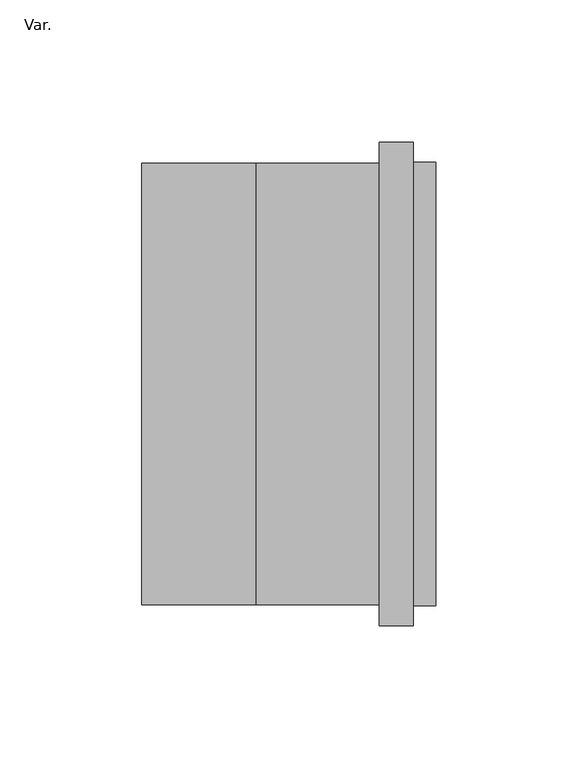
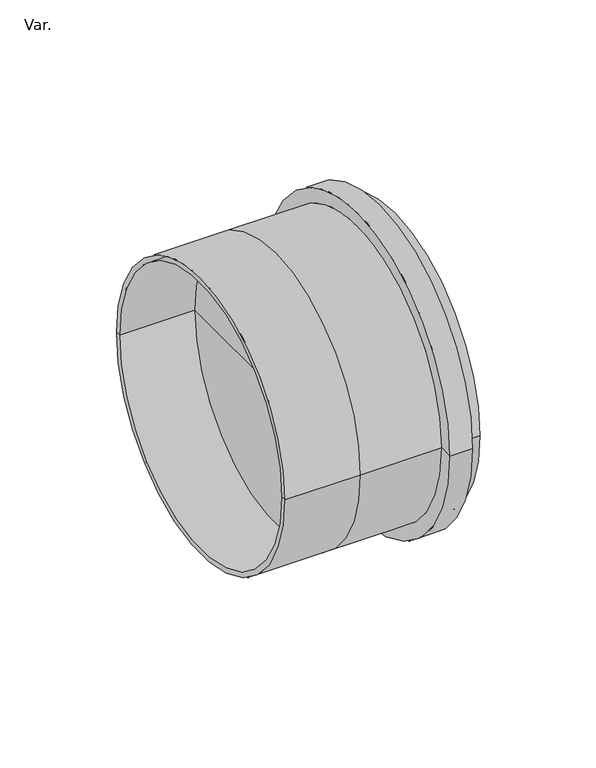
"""IFC4 building model written with IfcOpenShell, lengths in millimetres: pipe fitting geometry, AmancoWavin_ConexõesdeTubos_EsgotoZNãoUsarLuvaSimple : Var.."""

import ifcopenshell
import ifcopenshell.guid

model = None  # the IFC model being written
_history = None  # IfcOwnerHistory: only IFC2X3 demands one
_inside = {}  # id of a spatial element -> (the spatial element, [elements in it])
_under = {}  # id of a project, library or spatial element -> (it, [spatial elements below it])
_declared = {}  # id of a project -> (the project, [libraries it declares])
_typed = {}  # id of a type object -> (the type object, [elements of that type])
_made_of = {}  # id of a material, layer set ... -> (it, [elements and type objects made of it])


def new_model(schema):
    """Start an empty IFC model of exactly this schema.

    Asked for "IFC4X3", IfcOpenShell would pick the latest addendum, in which some entities
    have other attributes; the version numbers below select the first issue.
    IFC2X3 requires an IfcOwnerHistory on every rooted entity: one is made here for all.
    """
    global model, _history
    if schema == "IFC4X3":
        model = ifcopenshell.file(schema_version=(4, 3, 0, 0))
    else:
        model = ifcopenshell.file(schema=schema)
    _inside.clear()
    _under.clear()
    _declared.clear()
    _typed.clear()
    _made_of.clear()
    _history = None
    if model.schema == "IFC2X3":
        org = make("IfcOrganization", Name="unknown")
        user = make(
            "IfcPersonAndOrganization",
            ThePerson=make("IfcPerson", FamilyName="unknown"),
            TheOrganization=org,
        )
        app = make(
            "IfcApplication",
            ApplicationDeveloper=org,
            Version="unknown",
            ApplicationFullName="unknown",
            ApplicationIdentifier="unknown",
        )
        _history = make(
            "IfcOwnerHistory",
            OwningUser=user,
            OwningApplication=app,
            ChangeAction="ADDED",
            CreationDate=0,
        )
    return model


def make(cls, **values):
    """One entity of the class cls with the attributes given. An attribute that is None is left unset."""
    return model.create_entity(
        cls, **{name: value for name, value in values.items() if value is not None}
    )


def rooted(cls, **values):
    """An entity with a GlobalId (a new one), such as an element, a storey or a relation."""
    return make(cls, GlobalId=ifcopenshell.guid.new(), OwnerHistory=_history, **values)


def si_unit(unit_type, name, prefix=None):
    """IfcSIUnit, for example si_unit("LENGTHUNIT", "METRE", prefix="MILLI")."""
    return make("IfcSIUnit", UnitType=unit_type, Prefix=prefix, Name=name)


def assignment(units):
    """IfcUnitAssignment: the units of a project."""
    return None if units is None else make("IfcUnitAssignment", Units=units)


def point(xyz):
    """IfcCartesianPoint."""
    return None if xyz is None else make("IfcCartesianPoint", Coordinates=xyz)


def direction(xyz):
    """IfcDirection."""
    return None if xyz is None else make("IfcDirection", DirectionRatios=xyz)


def frame(location, z_axis=None, x_axis=None):
    """IfcAxis2Placement3D, a coordinate frame: its origin and axes. An axis left out is left unset."""
    return make(
        "IfcAxis2Placement3D",
        Location=point(location),
        Axis=direction(z_axis),
        RefDirection=direction(x_axis),
    )


def origin():
    """The frame at (0, 0, 0) with its axes left unset."""
    return frame((0.0, 0.0, 0.0))


def place(relative_to, where):
    """IfcLocalPlacement: puts the frame where relative to a parent placement (None: the world)."""
    return make(
        "IfcLocalPlacement", PlacementRelTo=relative_to, RelativePlacement=where
    )


def context(
    kind, dimensions, precision=None, world=None, true_north=None, identifier=None
):
    """IfcGeometricRepresentationContext, for example the 3D "Model" context."""
    return make(
        "IfcGeometricRepresentationContext",
        ContextIdentifier=identifier,
        ContextType=kind,
        CoordinateSpaceDimension=dimensions,
        Precision=precision,
        WorldCoordinateSystem=world,
        TrueNorth=true_north,
    )


def project(units=None, contexts=None):
    """IfcProject with its units and contexts."""
    return rooted(
        "IfcProject",
        Name="project",
        RepresentationContexts=contexts,
        UnitsInContext=assignment(units),
    )


def spatial(cls, under=None, at=None, **own):
    """A site, building, storey or space (cls), placed at a placement, below another one or the project."""
    s = rooted(cls, ObjectPlacement=at, **own)
    if under is not None:
        _under.setdefault(under.id(), (under, []))[1].append(s)
    return s


def polyline(points):
    """IfcPolyline through the points."""
    return make("IfcPolyline", Points=[point(p) for p in points])


def circle_curve(where, radius):
    """IfcCircle in the frame where."""
    return make("IfcCircle", Position=where, Radius=radius)


def shape(context_of_items, identifier, shape_type, items):
    """IfcShapeRepresentation: the items that make up one representation, for example the "Body"."""
    return make(
        "IfcShapeRepresentation",
        ContextOfItems=context_of_items,
        RepresentationIdentifier=identifier,
        RepresentationType=shape_type,
        Items=items,
    )


def source(mapping_origin, context_of_items, identifier, shape_type, items):
    """IfcRepresentationMap: a shape defined once, which mapped items show again and again."""
    return make(
        "IfcRepresentationMap",
        MappingOrigin=mapping_origin,
        MappedRepresentation=shape(context_of_items, identifier, shape_type, items),
    )


def transform(
    local_origin,
    x_axis=None,
    y_axis=None,
    z_axis=None,
    scale=None,
    scale2=None,
    scale3=None,
    uniform=True,
):
    """IfcCartesianTransformationOperator3D, or its non-uniform kind. x_axis, y_axis, z_axis: its Axis1, 2, 3."""
    if uniform:
        return make(
            "IfcCartesianTransformationOperator3D",
            Axis1=direction(x_axis),
            Axis2=direction(y_axis),
            LocalOrigin=point(local_origin),
            Scale=scale,
            Axis3=direction(z_axis),
        )
    return make(
        "IfcCartesianTransformationOperator3DnonUniform",
        Axis1=direction(x_axis),
        Axis2=direction(y_axis),
        LocalOrigin=point(local_origin),
        Scale=scale,
        Axis3=direction(z_axis),
        Scale2=scale2,
        Scale3=scale3,
    )


def mapped(mapping_source, mapping_target):
    """IfcMappedItem: shows the shape of a source again, moved by a transform."""
    return make(
        "IfcMappedItem", MappingSource=mapping_source, MappingTarget=mapping_target
    )


def made_of(thing, what):
    """Note that an element or type object is made of a material, layer set ...; save() writes the relation."""
    if what is not None:
        _made_of.setdefault(what.id(), (what, []))[1].append(thing)
    return thing


def element(
    cls,
    number,
    at=None,
    inside=None,
    cuts=None,
    type_object=None,
    material=None,
    context=None,
    identifier="Body",
    shape_type=None,
    held_by="IfcProductDefinitionShape",
    body=None,
    shapes=None,
    **own,
):
    """One element of the class cls, such as IfcWall. Its Tag is "e" and its number.

    at: its placement. inside: the storey or other place that contains it. cuts: it is an
    opening in that element (IfcRelVoidsElement). A single representation is given by context,
    identifier, shape_type and body (its items); several are given by shapes. held_by: the class
    of the entity that holds the representations. save() writes the other relations.
    """
    e = rooted(cls, Tag="e%d" % number, ObjectPlacement=at, **own)
    if body is not None:
        shapes = [shape(context, identifier, shape_type, body)]
    if shapes is not None:
        e.Representation = make(held_by, Representations=shapes)
    if inside is not None:
        _inside.setdefault(inside.id(), (inside, []))[1].append(e)
    if cuts is not None:
        rooted(
            "IfcRelVoidsElement", RelatingBuildingElement=cuts, RelatedOpeningElement=e
        )
    if type_object is not None:
        _typed.setdefault(type_object.id(), (type_object, []))[1].append(e)
    return made_of(e, material)


def aggregate(whole, parts):
    """IfcRelAggregates: a whole, such as a stair, and the parts it consists of."""
    return rooted("IfcRelAggregates", RelatingObject=whole, RelatedObjects=parts)


def save(model, path):
    """Write the relations noted so far, then the file.

    IfcRelAggregates (storeys below a building ...), IfcRelContainedInSpatialStructure (elements
    in a storey), IfcRelDefinesByType, IfcRelAssociatesMaterial and IfcRelDeclares: one each for
    every whole, place, type object, material and project.
    """
    for whole, parts in _under.values():
        aggregate(whole, parts)
    for where, things in _inside.values():
        rooted(
            "IfcRelContainedInSpatialStructure",
            RelatedElements=things,
            RelatingStructure=where,
        )
    for kind, things in _typed.values():
        rooted("IfcRelDefinesByType", RelatedObjects=things, RelatingType=kind)
    for what, things in _made_of.values():
        rooted("IfcRelAssociatesMaterial", RelatedObjects=things, RelatingMaterial=what)
    for by, libraries in _declared.values():
        rooted("IfcRelDeclares", RelatingContext=by, RelatedDefinitions=libraries)
    model.write(path)


def plane_surface(at):
    """IfcPlane: the flat surface through the origin of the frame at, square to its z axis."""
    return make("IfcPlane", Position=at)


def cylinder_surface(at, radius):
    """IfcCylindricalSurface: all points at the distance radius from the z axis of the frame at."""
    return make("IfcCylindricalSurface", Position=at, Radius=radius)


def revolved_surface(curve, axis_point, axis_direction):
    """IfcSurfaceOfRevolution: the curve turned about the line through axis_point along axis_direction."""
    return make(
        "IfcSurfaceOfRevolution",
        SweptCurve=make("IfcArbitraryOpenProfileDef", ProfileType="CURVE", Curve=curve),
        AxisPosition=make("IfcAxis1Placement", Location=point(axis_point), Axis=direction(axis_direction)),
    )


def advanced_brep(points, edges, surfaces, faces):
    """IfcAdvancedBrep: a solid bounded by faces that lie on surfaces and meet in shared edges.

    An edge is (start, end): straight between two places in points (the first is 0);
    or (start, end, curve); or (start, end, curve, False) where it runs against its curve.
    A face is (place in surfaces, loops), or (place, loops, False) where it looks against
    its surface's normal. A loop lists edges by number (the first is 1), with a minus sign
    where the edge is run from its end to its start. The first loop is the outer one.
    """
    corners = [point(p) for p in points]
    vertices = [make("IfcVertexPoint", VertexGeometry=c) for c in corners]
    made = []
    for start, end, *more in edges:
        made.append(
            make(
                "IfcEdgeCurve",
                EdgeStart=vertices[start],
                EdgeEnd=vertices[end],
                EdgeGeometry=more[0] if more else make("IfcPolyline", Points=[corners[start], corners[end]]),
                SameSense=more[1] if len(more) > 1 else True,
            )
        )
    hull = []
    for where, loops, *sense in faces:
        bounds = []
        for j, loop in enumerate(loops):
            ring = [make("IfcOrientedEdge", EdgeElement=made[abs(k) - 1], Orientation=k > 0) for k in loop]
            bounds.append(
                make(
                    "IfcFaceOuterBound" if j == 0 else "IfcFaceBound",
                    Bound=make("IfcEdgeLoop", EdgeList=ring),
                    Orientation=True,
                )
            )
        hull.append(make("IfcAdvancedFace", Bounds=bounds, FaceSurface=surfaces[where], SameSense=sense[0] if sense else True))
    return make("IfcAdvancedBrep", Outer=make("IfcClosedShell", CfsFaces=hull))


def var_42dec933(model_context):
    return source(origin(), model_context, "Body", "AdvancedBrep", [
        advanced_brep(
        [(55.5, -78.1, 0.0), (55.5, 78.1, 0.0), (63.5, 78.1, 0.0), (63.5, -78.1, 0.0), (55.5, -75.4, 0.0), (55.5, 75.4, 0.0), (63.5, -75.4, 0.0), (63.5, 75.4, 0.0)],
        [
            (0, 1, circle_curve(frame((55.5, 0.0, 0.0), z_axis=(1.0, 0.0, 0.0), x_axis=(0.0, 1.0, 0.0)), 78.1)),
            (1, 2),
            (2, 3, circle_curve(frame((63.5, 0.0, 0.0), z_axis=(-1.0, 0.0, 0.0), x_axis=(0.0, 1.0, 0.0)), 78.1)),
            (3, 0),
            (1, 0, circle_curve(frame((55.5, 0.0, 0.0), z_axis=(1.0, 0.0, 0.0), x_axis=(0.0, 1.0, 0.0)), 78.1)),
            (3, 2, circle_curve(frame((63.5, 0.0, 0.0), z_axis=(-1.0, 0.0, 0.0), x_axis=(0.0, 1.0, 0.0)), 78.1)),
            (4, 5, circle_curve(frame((55.5, 0.0, 0.0), z_axis=(1.0, 0.0, 0.0), x_axis=(0.0, 1.0, 0.0)), 75.4)),
            (5, 1),
            (0, 4),
            (5, 4, circle_curve(frame((55.5, 0.0, 0.0), z_axis=(1.0, 0.0, 0.0), x_axis=(0.0, 1.0, 0.0)), 75.4)),
            (6, 7, circle_curve(frame((63.5, 0.0, 0.0), z_axis=(1.0, 0.0, 0.0), x_axis=(0.0, 1.0, 0.0)), 75.4)),
            (7, 5),
            (4, 6),
            (7, 6, circle_curve(frame((63.5, 0.0, 0.0), z_axis=(1.0, 0.0, 0.0), x_axis=(0.0, 1.0, 0.0)), 75.4)),
            (2, 7),
            (6, 3),
        ],
        [
            cylinder_surface(frame((2024.2, 0.0, 0.0), z_axis=(-1.0, 0.0, 0.0), x_axis=(0.0, 1.0, 0.0)), 78.1),
            plane_surface(frame((55.5, 0.0, 0.0), z_axis=(-1.0, 0.0, 0.0), x_axis=(0.0, 1.0, 0.0))),
            revolved_surface(polyline([(55.5, 75.4, 0.0), (63.5, 75.4, 0.0)]), (2024.2, 0.0, 0.0), (-1.0, 0.0, 0.0)),
            plane_surface(frame((63.5, 0.0, 0.0), z_axis=(1.0, 0.0, 0.0), x_axis=(0.0, 1.0, 0.0))),
        ],
        [
            (0, [[1, 2, 3, 4]]),
            (0, [[5, -4, 6, -2]]),
            (1, [[7, 8, -1, 9]]),
            (1, [[10, -9, -5, -8]]),
            (2, [[11, 12, -7, 13]]),
            (2, [[14, -13, -10, -12]]),
            (3, [[-3, 15, -11, 16]]),
            (3, [[-6, -16, -14, -15]]),
        ],
    ),
        advanced_brep(
        [(-40.0, -77.7, 0.0), (-40.0, 77.7, 0.0), (0.0, 77.7, 0.0), (0.0, -77.7, 0.0), (-40.0, -75.0, 0.0), (-40.0, 75.0, 0.0), (0.0, -75.0, 0.0), (0.0, 75.0, 0.0), (0.0, 0.0, 0.0), (3.5, -75.4, 0.0), (3.5, 75.4, 0.0), (3.5, 0.0, 0.0), (55.5, -85.2, 0.0), (55.5, 85.2, 0.0), (55.5, 75.4, 0.0), (55.5, -75.4, 0.0), (43.5, -85.2, 0.0), (43.5, 85.2, 0.0), (43.5, -77.7, 0.0), (43.5, 77.7, 0.0)],
        [
            (0, 1, circle_curve(frame((-40.0, 0.0, 0.0), z_axis=(1.0, 0.0, 0.0), x_axis=(0.0, 1.0, 0.0)), 77.7)),
            (1, 2),
            (2, 3, circle_curve(frame((0.0, 0.0, 0.0), z_axis=(-1.0, 0.0, 0.0), x_axis=(0.0, 1.0, 0.0)), 77.7)),
            (3, 0),
            (1, 0, circle_curve(frame((-40.0, 0.0, 0.0), z_axis=(1.0, 0.0, 0.0), x_axis=(0.0, 1.0, 0.0)), 77.7)),
            (3, 2, circle_curve(frame((0.0, 0.0, 0.0), z_axis=(-1.0, 0.0, 0.0), x_axis=(0.0, 1.0, 0.0)), 77.7)),
            (4, 5, circle_curve(frame((-40.0, 0.0, 0.0), z_axis=(1.0, 0.0, 0.0), x_axis=(0.0, 1.0, 0.0)), 75.0)),
            (5, 1),
            (0, 4),
            (5, 4, circle_curve(frame((-40.0, 0.0, 0.0), z_axis=(1.0, 0.0, 0.0), x_axis=(0.0, 1.0, 0.0)), 75.0)),
            (6, 7, circle_curve(frame((0.0, 0.0, 0.0), z_axis=(1.0, 0.0, 0.0), x_axis=(0.0, 1.0, 0.0)), 75.0)),
            (7, 5),
            (4, 6),
            (7, 6, circle_curve(frame((0.0, 0.0, 0.0), z_axis=(1.0, 0.0, 0.0), x_axis=(0.0, 1.0, 0.0)), 75.0)),
            (8, 7),
            (6, 8),
            (9, 10, circle_curve(frame((3.5, 0.0, 0.0), z_axis=(1.0, 0.0, 0.0), x_axis=(0.0, 1.0, 0.0)), 75.4)),
            (10, 11),
            (11, 9),
            (10, 9, circle_curve(frame((3.5, 0.0, 0.0), z_axis=(1.0, 0.0, 0.0), x_axis=(0.0, 1.0, 0.0)), 75.4)),
            (12, 13, circle_curve(frame((55.5, 0.0, 0.0), z_axis=(1.0, 0.0, 0.0), x_axis=(0.0, 1.0, 0.0)), 85.2)),
            (13, 14),
            (14, 15, circle_curve(frame((55.5, 0.0, 0.0), z_axis=(-1.0, 0.0, 0.0), x_axis=(0.0, 1.0, 0.0)), 75.4)),
            (15, 12),
            (13, 12, circle_curve(frame((55.5, 0.0, 0.0), z_axis=(1.0, 0.0, 0.0), x_axis=(0.0, 1.0, 0.0)), 85.2)),
            (15, 14, circle_curve(frame((55.5, 0.0, 0.0), z_axis=(-1.0, 0.0, 0.0), x_axis=(0.0, 1.0, 0.0)), 75.4)),
            (16, 17, circle_curve(frame((43.5, 0.0, 0.0), z_axis=(1.0, 0.0, 0.0), x_axis=(0.0, 1.0, 0.0)), 85.2)),
            (17, 13),
            (12, 16),
            (17, 16, circle_curve(frame((43.5, 0.0, 0.0), z_axis=(1.0, 0.0, 0.0), x_axis=(0.0, 1.0, 0.0)), 85.2)),
            (18, 19, circle_curve(frame((43.5, 0.0, 0.0), z_axis=(1.0, 0.0, 0.0), x_axis=(0.0, 1.0, 0.0)), 77.7)),
            (19, 17),
            (16, 18),
            (19, 18, circle_curve(frame((43.5, 0.0, 0.0), z_axis=(1.0, 0.0, 0.0), x_axis=(0.0, 1.0, 0.0)), 77.7)),
            (2, 19),
            (18, 3),
            (14, 10),
            (9, 15),
        ],
        [
            cylinder_surface(frame((2018.5, 0.0, 0.0), z_axis=(-1.0, 0.0, 0.0), x_axis=(0.0, 1.0, 0.0)), 77.7),
            plane_surface(frame((-40.0, 0.0, 0.0), z_axis=(-1.0, 0.0, 0.0), x_axis=(0.0, 1.0, 0.0))),
            revolved_surface(polyline([(-40.0, 75.0, 0.0), (0.0, 75.0, 0.0)]), (2018.5, 0.0, 0.0), (-1.0, 0.0, 0.0)),
            plane_surface(frame((0.0, 0.0, 0.0), z_axis=(-1.0, 0.0, 0.0), x_axis=(0.0, 1.0, 0.0))),
            plane_surface(frame((3.5, 0.0, 0.0), z_axis=(1.0, 0.0, 0.0), x_axis=(0.0, 1.0, 0.0))),
            plane_surface(frame((55.5, 0.0, 0.0), z_axis=(1.0, 0.0, 0.0), x_axis=(0.0, 1.0, 0.0))),
            cylinder_surface(frame((2018.5, 0.0, 0.0), z_axis=(-1.0, 0.0, 0.0), x_axis=(0.0, 1.0, 0.0)), 85.2),
            plane_surface(frame((43.5, 0.0, 0.0), z_axis=(-1.0, 0.0, 0.0), x_axis=(0.0, 1.0, 0.0))),
            revolved_surface(polyline([(3.5, 75.4, 0.0), (55.5, 75.4, 0.0)]), (2018.5, 0.0, 0.0), (-1.0, 0.0, 0.0)),
        ],
        [
            (0, [[1, 2, 3, 4]]),
            (0, [[5, -4, 6, -2]]),
            (1, [[7, 8, -1, 9]]),
            (1, [[10, -9, -5, -8]]),
            (2, [[11, 12, -7, 13]]),
            (2, [[14, -13, -10, -12]]),
            (3, [[15, -11, 16]]),
            (3, [[-16, -14, -15]]),
            (4, [[17, 18, 19]]),
            (4, [[20, -19, -18]]),
            (5, [[21, 22, 23, 24]]),
            (5, [[25, -24, 26, -22]]),
            (6, [[27, 28, -21, 29]]),
            (6, [[30, -29, -25, -28]]),
            (7, [[31, 32, -27, 33]]),
            (7, [[34, -33, -30, -32]]),
            (0, [[-3, 35, -31, 36]]),
            (0, [[-6, -36, -34, -35]]),
            (8, [[-23, 37, -17, 38]]),
            (8, [[-26, -38, -20, -37]]),
        ],
    ),
    ])


if __name__ == "__main__":
    model = new_model("IFC4")
    model_context = context("Model", 3, world=origin())
    ifc_project = project(units=[si_unit("LENGTHUNIT", "METRE", prefix="MILLI")], contexts=[model_context])
    site = spatial("IfcSite", under=ifc_project)
    building = spatial("IfcBuilding", under=site)
    placement = place(None, origin())
    var_shape = var_42dec933(model_context)
    element("IfcPipeFitting", 1, ObjectType="AmancoWavin_ConexõesdeTubos_EsgotoZNãoUsarLuvaSimple : Var.", at=placement, inside=building, context=model_context, shape_type="MappedRepresentation", body=[
        mapped(var_shape, transform((0.0, 0.0, 0.0), x_axis=(1.0, 0.0, 0.0), y_axis=(0.0, 1.0, 0.0), z_axis=(0.0, 0.0, 1.0))),
    ])
    save(model, "model.ifc")
